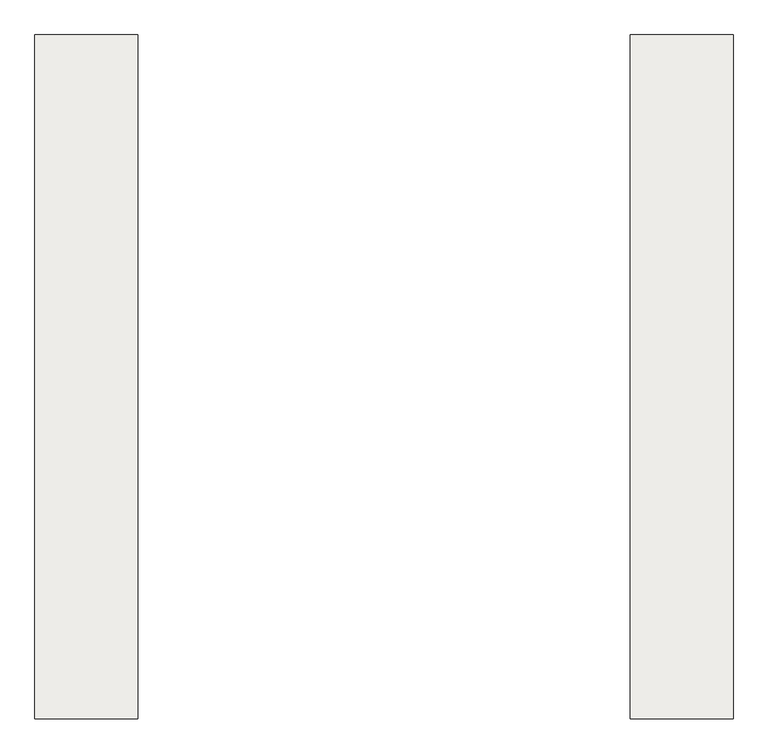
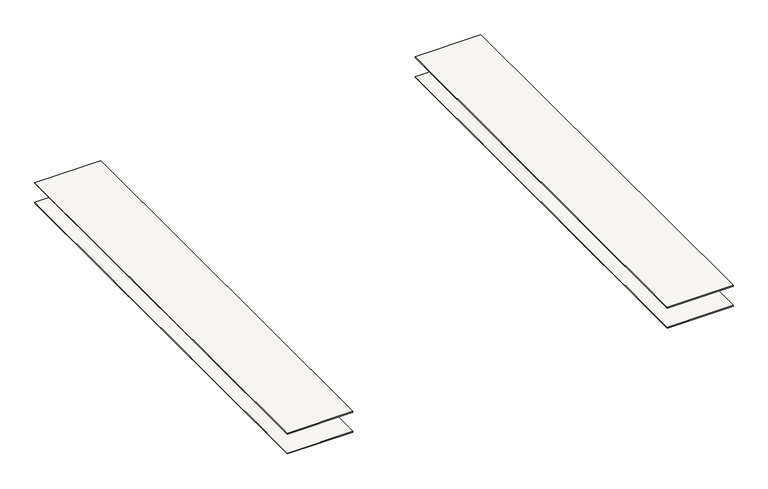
"""IFC4 building model written with IfcOpenShell, lengths in millimetres: slab geometry, Config-b_bottom_channel_fill : Config-b_bottom_channel_fill."""

from ifc_helpers import new_model, si_unit, frame, origin, place, context, project, spatial, polyline, outline, extrude, source, transform, mapped, element, save


def slab_0a3f1999(model_context):
    return source(origin(), model_context, "Body", "SweptSolid", [
        extrude(outline(polyline([(-882.0821284, 0.0), (-1242.0819551, 0.0), (-1242.0819551, 2390.0), (-882.0821284, 2390.0), (-882.0821284, 0.0)])), frame((0.0, 0.0, 603.7577807), z_axis=(0.0, 0.0, 1.0), x_axis=(1.0, 0.0, 0.0)), (0.0, 0.0, 1.0), 4.9999973),
        extrude(outline(polyline([(-882.0821284, 0.0), (-1242.0819551, 0.0), (-1242.0819551, 2390.0), (-882.0821284, 2390.0), (-882.0821284, 0.0)])), frame((0.0, 0.0, 488.7577796), z_axis=(0.0, 0.0, 1.0), x_axis=(1.0, 0.0, 0.0)), (0.0, 0.0, 1.0), 4.9999973),
        extrude(outline(polyline([(1197.9176549, 0.0), (837.9178283, 0.0), (837.9178283, 2390.0), (1197.9176549, 2390.0), (1197.9176549, 0.0)])), frame((0.0, 0.0, 603.7577807), z_axis=(0.0, 0.0, 1.0), x_axis=(1.0, 0.0, 0.0)), (0.0, 0.0, 1.0), 4.9999973),
        extrude(outline(polyline([(1197.9176549, 0.0), (837.9178283, 0.0), (837.9178283, 2390.0), (1197.9176549, 2390.0), (1197.9176549, 0.0)])), frame((0.0, 0.0, 488.7577796), z_axis=(0.0, 0.0, 1.0), x_axis=(1.0, 0.0, 0.0)), (0.0, 0.0, 1.0), 4.9999973),
    ])


if __name__ == "__main__":
    model = new_model("IFC4")
    model_context = context("Model", 3, world=origin())
    ifc_project = project(units=[si_unit("LENGTHUNIT", "METRE", prefix="MILLI")], contexts=[model_context])
    site = spatial("IfcSite", under=ifc_project)
    building = spatial("IfcBuilding", under=site)
    placement = place(None, origin())
    slab_shape = slab_0a3f1999(model_context)
    element("IfcSlab", 1, ObjectType="Config-b_bottom_channel_fill : Config-b_bottom_channel_fill", at=placement, inside=building, context=model_context, shape_type="MappedRepresentation", body=[
        mapped(slab_shape, transform((0.0, 0.0, 0.0), x_axis=(1.0, 0.0, 0.0), y_axis=(0.0, 1.0, 0.0), z_axis=(0.0, 0.0, 1.0))),
    ])
    save(model, "model.ifc")
